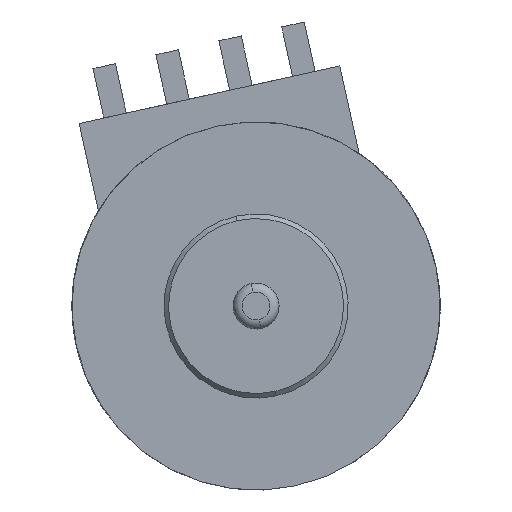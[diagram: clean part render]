
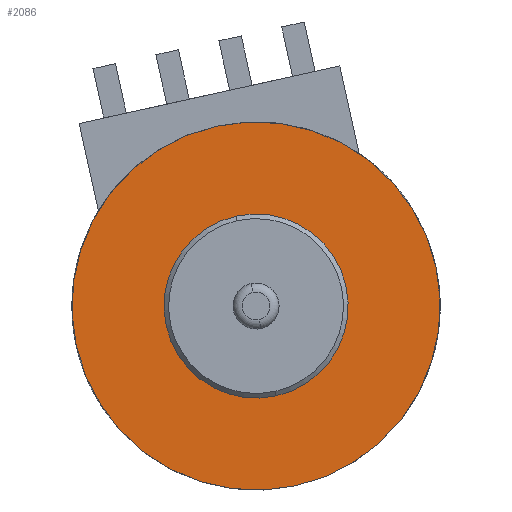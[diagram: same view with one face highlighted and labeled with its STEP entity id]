
A CAD part, front view. The second image highlights one B-rep face of the part: STEP entity #2086.
In plain terms, the highlighted planar face has unit normal (0, -1, 0).
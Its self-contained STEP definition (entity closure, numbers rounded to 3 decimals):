
#208 = ORIENTED_EDGE ( 'NONE', *, *, #1883, .F. ) ;
#282 = DIRECTION ( 'NONE',  ( 0., 1., 0. ) ) ;
#286 = EDGE_LOOP ( 'NONE', ( #878, #2508 ) ) ;
#313 = CIRCLE ( 'NONE', #2663, 2. ) ;
#332 = DIRECTION ( 'NONE',  ( 0., 1., 0. ) ) ;
#333 = DIRECTION ( 'NONE',  ( -0.215, 0., 0.977 ) ) ;
#386 = ORIENTED_EDGE ( 'NONE', *, *, #651, .F. ) ;
#551 = AXIS2_PLACEMENT_3D ( 'NONE', #2929, #1186, #3215 ) ;
#630 = CIRCLE ( 'NONE', #890, 4. ) ;
#651 = EDGE_CURVE ( 'NONE', #921, #2414, #630, .T. ) ;
#662 = CARTESIAN_POINT ( 'NONE',  ( -2.278, -11.278, -0.356 ) ) ;
#878 = ORIENTED_EDGE ( 'NONE', *, *, #1889, .T. ) ;
#882 = DIRECTION ( 'NONE',  ( -0.215, 0., 0.977 ) ) ;
#890 = AXIS2_PLACEMENT_3D ( 'NONE', #1462, #1487, #1536 ) ;
#921 = VERTEX_POINT ( 'NONE', #662 ) ;
#1152 = CIRCLE ( 'NONE', #2477, 4. ) ;
#1186 = DIRECTION ( 'NONE',  ( 0., 1., 0. ) ) ;
#1249 = FACE_OUTER_BOUND ( 'NONE', #1869, .T. ) ;
#1299 = PLANE ( 'NONE',  #1827 ) ;
#1462 = CARTESIAN_POINT ( 'NONE',  ( -1.417, -11.278, -4.262 ) ) ;
#1487 = DIRECTION ( 'NONE',  ( 0., 1., 0. ) ) ;
#1535 = CARTESIAN_POINT ( 'NONE',  ( -0.987, -11.278, -6.215 ) ) ;
#1536 = DIRECTION ( 'NONE',  ( -0.215, 0., 0.977 ) ) ;
#1625 = CARTESIAN_POINT ( 'NONE',  ( -1.417, -11.278, -4.262 ) ) ;
#1695 = CARTESIAN_POINT ( 'NONE',  ( -1.417, -11.278, -4.262 ) ) ;
#1827 = AXIS2_PLACEMENT_3D ( 'NONE', #2617, #332, #882 ) ;
#1869 = EDGE_LOOP ( 'NONE', ( #386, #208 ) ) ;
#1883 = EDGE_CURVE ( 'NONE', #2414, #921, #1152, .T. ) ;
#1889 = EDGE_CURVE ( 'NONE', #2448, #2739, #313, .T. ) ;
#2086 = ADVANCED_FACE ( 'NONE', ( #1249, #2975 ), #1299, .F. ) ;
#2414 = VERTEX_POINT ( 'NONE', #3384 ) ;
#2448 = VERTEX_POINT ( 'NONE', #2813 ) ;
#2477 = AXIS2_PLACEMENT_3D ( 'NONE', #1625, #3412, #333 ) ;
#2508 = ORIENTED_EDGE ( 'NONE', *, *, #3691, .T. ) ;
#2617 = CARTESIAN_POINT ( 'NONE',  ( -0.556, -11.278, -8.168 ) ) ;
#2663 = AXIS2_PLACEMENT_3D ( 'NONE', #1695, #282, #3397 ) ;
#2739 = VERTEX_POINT ( 'NONE', #1535 ) ;
#2813 = CARTESIAN_POINT ( 'NONE',  ( -1.848, -11.278, -2.309 ) ) ;
#2929 = CARTESIAN_POINT ( 'NONE',  ( -1.417, -11.278, -4.262 ) ) ;
#2975 = FACE_BOUND ( 'NONE', #286, .T. ) ;
#3096 = CIRCLE ( 'NONE', #551, 2. ) ;
#3215 = DIRECTION ( 'NONE',  ( -0.215, 0., 0.977 ) ) ;
#3384 = CARTESIAN_POINT ( 'NONE',  ( -0.556, -11.278, -8.168 ) ) ;
#3397 = DIRECTION ( 'NONE',  ( -0.215, 0., 0.977 ) ) ;
#3412 = DIRECTION ( 'NONE',  ( 0., 1., 0. ) ) ;
#3691 = EDGE_CURVE ( 'NONE', #2739, #2448, #3096, .T. ) ;
